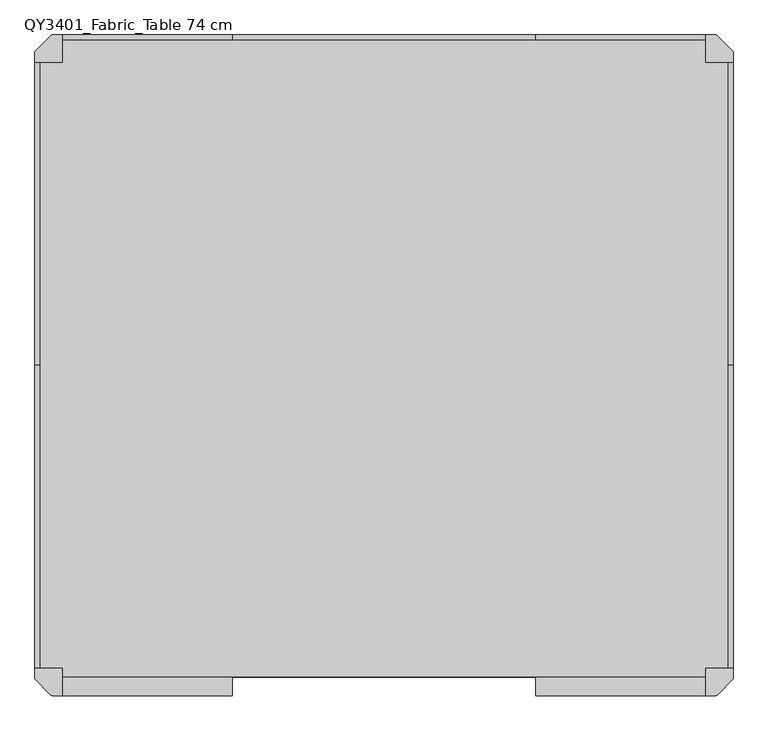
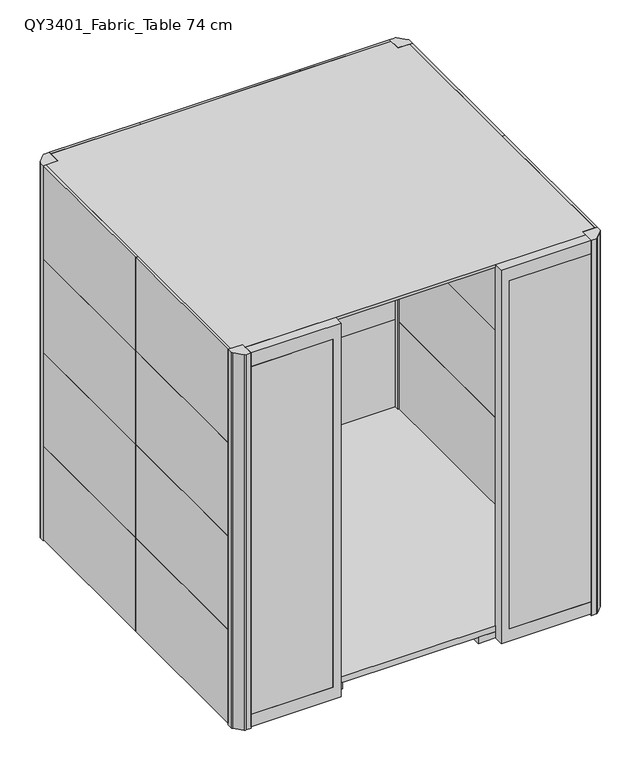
"""IFC4 building model written with IfcOpenShell, lengths in millimetres: furniture geometry, Qyos_400 : QY3401_Fabric_Table 74 cm."""

from ifc_helpers import new_model, si_unit, point, frame, frame_2d, origin, origin_with_axes, place, context, project, spatial, polyline, circle_curve, trimmed, segment, composite_curve, outline, extrude, source, transform, mapped, element, save
from ifc_brep_helpers import plane_surface, cylinder_surface, advanced_brep


def qy3401_fabric_table_74_cm_c8840b60(model_context):
    return source(origin(), model_context, "Body", "SolidModel", [
        advanced_brep(
        [(853.8585356, 827.0, 0.0), (900.1414644, 827.0, 0.0), (877.0, 827.0, 0.0), (853.8585356, 827.0, 7.0), (900.1414644, 827.0, 7.0), (867.3615446, 827.0, 7.0), (886.6384554, 827.0, 7.0), (867.3615446, 827.0, 17.0), (886.6384554, 827.0, 17.0), (877.0, 827.0, 17.0)],
        [
            (0, 1, circle_curve(frame((877.0, 827.0, 0.0), z_axis=(0.0, 0.0, -1.0), x_axis=(1.0, 0.0, 0.0)), 23.1414644)),
            (1, 2),
            (2, 0),
            (1, 0, circle_curve(frame((877.0, 827.0, 0.0), z_axis=(0.0, 0.0, -1.0), x_axis=(1.0, 0.0, 0.0)), 23.1414644)),
            (3, 4, circle_curve(frame((877.0, 827.0, 7.0), z_axis=(0.0, 0.0, -1.0), x_axis=(1.0, 0.0, 0.0)), 23.1414644)),
            (4, 1),
            (0, 3),
            (4, 3, circle_curve(frame((877.0, 827.0, 7.0), z_axis=(0.0, 0.0, -1.0), x_axis=(1.0, 0.0, 0.0)), 23.1414644)),
            (5, 6, circle_curve(frame((877.0, 827.0, 7.0), z_axis=(0.0, 0.0, -1.0), x_axis=(1.0, 0.0, 0.0)), 9.6384554)),
            (6, 4),
            (3, 5),
            (6, 5, circle_curve(frame((877.0, 827.0, 7.0), z_axis=(0.0, 0.0, -1.0), x_axis=(1.0, 0.0, 0.0)), 9.6384554)),
            (7, 8, circle_curve(frame((877.0, 827.0, 17.0), z_axis=(0.0, 0.0, -1.0), x_axis=(1.0, 0.0, 0.0)), 9.6384554)),
            (8, 6),
            (5, 7),
            (8, 7, circle_curve(frame((877.0, 827.0, 17.0), z_axis=(0.0, 0.0, -1.0), x_axis=(1.0, 0.0, 0.0)), 9.6384554)),
            (9, 8),
            (7, 9),
        ],
        [
            plane_surface(frame((877.0, 827.0, 0.0), z_axis=(0.0, 0.0, -1.0), x_axis=(1.0, 0.0, 0.0))),
            cylinder_surface(frame((877.0, 827.0, 1997.4144888), z_axis=(0.0, 0.0, 1.0), x_axis=(1.0, 0.0, 0.0)), 23.1414644),
            plane_surface(frame((877.0, 827.0, 7.0), z_axis=(0.0, 0.0, 1.0), x_axis=(1.0, 0.0, 0.0))),
            cylinder_surface(frame((877.0, 827.0, 1997.4144888), z_axis=(0.0, 0.0, 1.0), x_axis=(1.0, 0.0, 0.0)), 9.6384554),
            plane_surface(frame((877.0, 827.0, 17.0), z_axis=(0.0, 0.0, 1.0), x_axis=(1.0, 0.0, 0.0))),
        ],
        [
            (0, [[1, 2, 3]]),
            (0, [[4, -3, -2]]),
            (1, [[5, 6, -1, 7]]),
            (1, [[8, -7, -4, -6]]),
            (2, [[9, 10, -5, 11]]),
            (2, [[12, -11, -8, -10]]),
            (3, [[13, 14, -9, 15]]),
            (3, [[16, -15, -12, -14]]),
            (4, [[17, -13, 18]]),
            (4, [[-18, -16, -17]]),
        ],
    ),
        extrude(outline(composite_curve([segment(trimmed(circle_curve(frame_2d((877.0, 827.0)), 23.1414644), [point((853.8585356, 827.0))], [point((900.1414644, 827.0))], False, "CARTESIAN"), True, "CONTINUOUS"), segment(trimmed(circle_curve(frame_2d((877.0, 827.0)), 23.1414644), [point((900.1414644, 827.0))], [point((853.8585356, 827.0))], False, "CARTESIAN"), True, "CONTINUOUS")], self_intersect=False)), origin_with_axes(), (0.0, 0.0, 1.0), 7.0),
        extrude(outline(composite_curve([segment(polyline([(-945.0, 890.0), (-1025.0, 890.0), (-1025.0, 917.5536246)]), True, "CONTINUOUS"), segment(trimmed(circle_curve(frame_2d((-1013.0024364, 917.3118252)), 12.0), [point((-1025.0, 917.5536246))], [point((-1021.7960176, 925.4771745))], False, "CARTESIAN"), True, "CONTINUOUS"), segment(trimmed(circle_curve(frame_2d((-443.4303831, 388.431197)), 789.2560985), [point((-1021.7960176, 925.4771745))], [point((-980.4763607, 966.7968315))], False, "CARTESIAN"), True, "CONTINUOUS"), segment(trimmed(circle_curve(frame_2d((-972.3110114, 958.0032502)), 12.0), [point((-980.4763607, 966.7968315))], [point((-972.5902872, 970.0))], False, "CARTESIAN"), True, "CONTINUOUS"), segment(polyline([(-972.5902872, 970.0), (-945.0, 970.0), (-945.0, 890.0)]), True, "CONTINUOUS")], self_intersect=False)), origin_with_axes(), (0.0, 0.0, 1.0), 2202.1),
        extrude(outline(composite_curve([segment(polyline([(945.0, 890.0), (945.0, 970.0), (972.5536246, 970.0)]), True, "CONTINUOUS"), segment(trimmed(circle_curve(frame_2d((972.3118252, 958.0024364)), 12.0), [point((972.5536246, 970.0))], [point((980.4771745, 966.7960176))], False, "CARTESIAN"), True, "CONTINUOUS"), segment(trimmed(circle_curve(frame_2d((443.431197, 388.4303831)), 789.2560985), [point((980.4771745, 966.7960176))], [point((1021.7968315, 925.4763607))], False, "CARTESIAN"), True, "CONTINUOUS"), segment(trimmed(circle_curve(frame_2d((1013.0032502, 917.3110114)), 12.0), [point((1021.7968315, 925.4763607))], [point((1025.0, 917.5902872))], False, "CARTESIAN"), True, "CONTINUOUS"), segment(polyline([(1025.0, 917.5902872), (1025.0, 890.0), (945.0, 890.0)]), True, "CONTINUOUS")], self_intersect=False)), origin_with_axes(), (0.0, 0.0, 1.0), 2202.1),
        extrude(outline(composite_curve([segment(polyline([(945.0, -890.0), (1025.0, -890.0), (1025.0, -917.5536246)]), True, "CONTINUOUS"), segment(trimmed(circle_curve(frame_2d((1013.0024364, -917.3118252)), 12.0), [point((1025.0, -917.5536246))], [point((1021.7960176, -925.4771745))], False, "CARTESIAN"), True, "CONTINUOUS"), segment(trimmed(circle_curve(frame_2d((443.4303831, -388.431197)), 789.2560985), [point((1021.7960176, -925.4771745))], [point((980.4763607, -966.7968315))], False, "CARTESIAN"), True, "CONTINUOUS"), segment(trimmed(circle_curve(frame_2d((972.3110114, -958.0032502)), 12.0), [point((980.4763607, -966.7968315))], [point((972.5902872, -970.0))], False, "CARTESIAN"), True, "CONTINUOUS"), segment(polyline([(972.5902872, -970.0), (945.0, -970.0), (945.0, -890.0)]), True, "CONTINUOUS")], self_intersect=False)), origin_with_axes(), (0.0, 0.0, 1.0), 2202.1),
        extrude(outline(composite_curve([segment(polyline([(-945.0, -890.0), (-945.0, -970.0), (-972.5536246, -970.0)]), True, "CONTINUOUS"), segment(trimmed(circle_curve(frame_2d((-972.3118252, -958.0024364)), 12.0), [point((-972.5536246, -970.0))], [point((-980.4771745, -966.7960176))], False, "CARTESIAN"), True, "CONTINUOUS"), segment(trimmed(circle_curve(frame_2d((-443.431197, -388.4303831)), 789.2560985), [point((-980.4771745, -966.7960176))], [point((-1021.7968315, -925.4763607))], False, "CARTESIAN"), True, "CONTINUOUS"), segment(trimmed(circle_curve(frame_2d((-1013.0032502, -917.3110114)), 12.0), [point((-1021.7968315, -925.4763607))], [point((-1025.0, -917.5902872))], False, "CARTESIAN"), True, "CONTINUOUS"), segment(polyline([(-1025.0, -917.5902872), (-1025.0, -890.0), (-945.0, -890.0)]), True, "CONTINUOUS")], self_intersect=False)), origin_with_axes(), (0.0, 0.0, 1.0), 2202.1),
        extrude(outline(polyline([(-445.0, 970.0), (-445.0, 956.0), (-945.0, 956.0), (-945.0, 970.0), (-445.0, 970.0)])), frame((0.0, 0.0, 1654.0116287), z_axis=(0.0, 0.0, 1.0), x_axis=(1.0, 0.0, 0.0)), (0.0, 0.0, 1.0), 548.0883713),
        extrude(outline(polyline([(945.0, 956.0), (445.0557256, 956.0), (445.0557256, 970.0), (945.0, 970.0), (945.0, 956.0)])), frame((0.0, 0.0, 1654.0116287), z_axis=(0.0, 0.0, 1.0), x_axis=(1.0, 0.0, 0.0)), (0.0, 0.0, 1.0), 548.0883713),
        extrude(outline(polyline([(-445.0, 970.0), (-445.0, 956.0), (-945.0, 956.0), (-945.0, 970.0), (-445.0, 970.0)])), frame((0.0, 0.0, 1106.0116287), z_axis=(0.0, 0.0, 1.0), x_axis=(1.0, 0.0, 0.0)), (0.0, 0.0, 1.0), 548.0),
        extrude(outline(polyline([(945.0, 956.0), (445.0557256, 956.0), (445.0557256, 970.0), (945.0, 970.0), (945.0, 956.0)])), frame((0.0, 0.0, 1106.0116287), z_axis=(0.0, 0.0, 1.0), x_axis=(1.0, 0.0, 0.0)), (0.0, 0.0, 1.0), 548.0),
        extrude(outline(polyline([(-445.0, 970.0), (-445.0, 956.0), (-945.0, 956.0), (-945.0, 970.0), (-445.0, 970.0)])), frame((0.0, 0.0, 558.0116287), z_axis=(0.0, 0.0, 1.0), x_axis=(1.0, 0.0, 0.0)), (0.0, 0.0, 1.0), 548.0),
        extrude(outline(polyline([(945.0, 956.0), (445.0557256, 956.0), (445.0557256, 970.0), (945.0, 970.0), (945.0, 956.0)])), frame((0.0, 0.0, 558.0116287), z_axis=(0.0, 0.0, 1.0), x_axis=(1.0, 0.0, 0.0)), (0.0, 0.0, 1.0), 548.0),
        extrude(outline(polyline([(-945.0, 915.0), (-945.0, 934.0), (-445.0, 934.0), (-445.0, 915.0), (-945.0, 915.0)])), frame((0.0, 0.0, 1617.9823403), z_axis=(0.0, 0.0, 1.0), x_axis=(1.0, 0.0, 0.0)), (0.0, 0.0, 1.0), 504.1176597),
        extrude(outline(polyline([(445.0557256, 934.0), (945.0, 934.0), (945.0, 915.0), (445.0557256, 915.0), (445.0557256, 934.0)])), frame((0.0, 0.0, 1617.9823403), z_axis=(0.0, 0.0, 1.0), x_axis=(1.0, 0.0, 0.0)), (0.0, 0.0, 1.0), 504.1176597),
        extrude(outline(polyline([(-945.0, 915.0), (-945.0, 934.0), (-445.0, 934.0), (-445.0, 915.0), (-945.0, 915.0)])), frame((0.0, 0.0, 1106.0116287), z_axis=(0.0, 0.0, 1.0), x_axis=(1.0, 0.0, 0.0)), (0.0, 0.0, 1.0), 511.9707116),
        extrude(outline(polyline([(445.0557256, 934.0), (945.0, 934.0), (945.0, 915.0), (445.0557256, 915.0), (445.0557256, 934.0)])), frame((0.0, 0.0, 1106.0116287), z_axis=(0.0, 0.0, 1.0), x_axis=(1.0, 0.0, 0.0)), (0.0, 0.0, 1.0), 511.9707116),
        extrude(outline(polyline([(-945.0, 915.0), (-945.0, 934.0), (-445.0, 934.0), (-445.0, 915.0), (-945.0, 915.0)])), frame((0.0, 0.0, 593.9823403), z_axis=(0.0, 0.0, 1.0), x_axis=(1.0, 0.0, 0.0)), (0.0, 0.0, 1.0), 512.0292884),
        extrude(outline(polyline([(445.0557256, 934.0), (945.0, 934.0), (945.0, 915.0), (445.0557256, 915.0), (445.0557256, 934.0)])), frame((0.0, 0.0, 593.9823403), z_axis=(0.0, 0.0, 1.0), x_axis=(1.0, 0.0, 0.0)), (0.0, 0.0, 1.0), 512.0292884),
        extrude(outline(polyline([(-945.0, 915.0), (-945.0, 934.0), (-445.0, 934.0), (-445.0, 915.0), (-945.0, 915.0)])), frame((0.0, 0.0, 77.0), z_axis=(0.0, 0.0, 1.0), x_axis=(1.0, 0.0, 0.0)), (0.0, 0.0, 1.0), 516.9823403),
        extrude(outline(polyline([(445.0557256, 934.0), (945.0, 934.0), (945.0, 915.0), (445.0557256, 915.0), (445.0557256, 934.0)])), frame((0.0, 0.0, 77.0), z_axis=(0.0, 0.0, 1.0), x_axis=(1.0, 0.0, 0.0)), (0.0, 0.0, 1.0), 516.9823403),
        extrude(outline(polyline([(-445.0, 970.0), (-445.0, 956.0), (-945.0, 956.0), (-945.0, 970.0), (-445.0, 970.0)])), frame((0.0, 0.0, 10.0), z_axis=(0.0, 0.0, 1.0), x_axis=(1.0, 0.0, 0.0)), (0.0, 0.0, 1.0), 548.0116287),
        extrude(outline(polyline([(945.0, 956.0), (445.0557256, 956.0), (445.0557256, 970.0), (945.0, 970.0), (945.0, 956.0)])), frame((0.0, 0.0, 10.0), z_axis=(0.0, 0.0, 1.0), x_axis=(1.0, 0.0, 0.0)), (0.0, 0.0, 1.0), 548.0116287),
        extrude(outline(polyline([(-1025.0, -890.0), (-1025.0, 0.0), (-1011.0, 0.0), (-1011.0, -890.0), (-1025.0, -890.0)])), frame((0.0, 0.0, 10.0), z_axis=(0.0, 0.0, 1.0), x_axis=(1.0, 0.0, 0.0)), (0.0, 0.0, 1.0), 548.0116287),
        extrude(outline(polyline([(1025.0, -890.0), (1011.0, -890.0), (1011.0, 0.0), (1025.0, 0.0), (1025.0, -890.0)])), frame((0.0, 0.0, 10.0), z_axis=(0.0, 0.0, 1.0), x_axis=(1.0, 0.0, 0.0)), (0.0, 0.0, 1.0), 548.0116287),
        extrude(outline(polyline([(-1025.0, -890.0), (-1025.0, 0.0), (-1011.0, 0.0), (-1011.0, -890.0), (-1025.0, -890.0)])), frame((0.0, 0.0, 558.0116287), z_axis=(0.0, 0.0, 1.0), x_axis=(1.0, 0.0, 0.0)), (0.0, 0.0, 1.0), 548.0),
        extrude(outline(polyline([(1025.0, -890.0), (1011.0, -890.0), (1011.0, 0.0), (1025.0, 0.0), (1025.0, -890.0)])), frame((0.0, 0.0, 558.0116287), z_axis=(0.0, 0.0, 1.0), x_axis=(1.0, 0.0, 0.0)), (0.0, 0.0, 1.0), 548.0),
        extrude(outline(polyline([(-1025.0, -890.0), (-1025.0, 0.0), (-1011.0, 0.0), (-1011.0, -890.0), (-1025.0, -890.0)])), frame((0.0, 0.0, 1106.0116287), z_axis=(0.0, 0.0, 1.0), x_axis=(1.0, 0.0, 0.0)), (0.0, 0.0, 1.0), 548.0),
        extrude(outline(polyline([(1025.0, -890.0), (1011.0, -890.0), (1011.0, 0.0), (1025.0, 0.0), (1025.0, -890.0)])), frame((0.0, 0.0, 1106.0116287), z_axis=(0.0, 0.0, 1.0), x_axis=(1.0, 0.0, 0.0)), (0.0, 0.0, 1.0), 548.0),
        extrude(outline(polyline([(-1025.0, -890.0), (-1025.0, 0.0), (-1011.0, 0.0), (-1011.0, -890.0), (-1025.0, -890.0)])), frame((0.0, 0.0, 1654.0116287), z_axis=(0.0, 0.0, 1.0), x_axis=(1.0, 0.0, 0.0)), (0.0, 0.0, 1.0), 548.0883713),
        extrude(outline(polyline([(1025.0, -890.0), (1011.0, -890.0), (1011.0, 0.0), (1025.0, 0.0), (1025.0, -890.0)])), frame((0.0, 0.0, 1654.0116287), z_axis=(0.0, 0.0, 1.0), x_axis=(1.0, 0.0, 0.0)), (0.0, 0.0, 1.0), 548.0883713),
        extrude(outline(polyline([(-1025.0, 0.0), (-1025.0, 890.0), (-1011.0, 890.0), (-1011.0, 0.0), (-1025.0, 0.0)])), frame((0.0, 0.0, 1654.0116287), z_axis=(0.0, 0.0, 1.0), x_axis=(1.0, 0.0, 0.0)), (0.0, 0.0, 1.0), 548.0883713),
        extrude(outline(polyline([(1025.0, 0.0), (1011.0, 0.0), (1011.0, 890.0), (1025.0, 890.0), (1025.0, 0.0)])), frame((0.0, 0.0, 1654.0116287), z_axis=(0.0, 0.0, 1.0), x_axis=(1.0, 0.0, 0.0)), (0.0, 0.0, 1.0), 548.0883713),
        extrude(outline(polyline([(445.0557256, 970.0), (445.0557256, 956.0), (-445.0, 956.0), (-445.0, 970.0), (445.0557256, 970.0)])), frame((0.0, 0.0, 1654.0116287), z_axis=(0.0, 0.0, 1.0), x_axis=(1.0, 0.0, 0.0)), (0.0, 0.0, 1.0), 548.0883713),
        extrude(outline(polyline([(-445.0, 956.0), (445.0, 956.0), (945.0, 956.0), (945.0, 890.0), (1011.0, 890.0), (1011.0, -890.0), (945.0, -890.0), (945.0, -914.9956819), (-945.0, -914.9956819), (-945.0, -890.0), (-1011.0, -890.0), (-1011.0, 890.0), (-945.0, 890.0), (-945.0, 956.0), (-445.0, 956.0)])), frame((0.0, 0.0, 2186.1), z_axis=(0.0, 0.0, 1.0), x_axis=(1.0, 0.0, 0.0)), (0.0, 0.0, 1.0), 16.0),
        extrude(outline(polyline([(-490.0089845, -970.0), (-945.0, -970.0), (-945.0, -965.0), (-490.0089845, -965.0), (-490.0089845, -970.0)])), frame((0.0, 0.0, 82.0), z_axis=(0.0, 0.0, 1.0), x_axis=(1.0, 0.0, 0.0)), (0.0, 0.0, 1.0), 2040.1),
        extrude(outline(polyline([(945.0, -970.0), (490.0089845, -970.0), (490.0089845, -965.0), (945.0, -965.0), (945.0, -970.0)])), frame((0.0, 0.0, 82.0), z_axis=(0.0, 0.0, 1.0), x_axis=(1.0, 0.0, 0.0)), (0.0, 0.0, 1.0), 2040.1),
        extrude(outline(polyline([(-857.0, -914.9956819), (-897.0, -914.9956819), (-897.0, 915.0), (-857.0, 915.0), (-857.0, -914.9956819)])), frame((0.0, 0.0, 10.0), z_axis=(0.0, 0.0, 1.0), x_axis=(1.0, 0.0, 0.0)), (0.0, 0.0, 1.0), 37.0),
        extrude(outline(polyline([(-405.0, -914.9956819), (-445.0, -914.9956819), (-445.0, 915.0), (-405.0, 915.0), (-405.0, -914.9956819)])), frame((0.0, 0.0, 10.0), z_axis=(0.0, 0.0, 1.0), x_axis=(1.0, 0.0, 0.0)), (0.0, 0.0, 1.0), 37.0),
        extrude(outline(polyline([(897.0, -914.9956819), (857.0, -914.9956819), (857.0, 915.0), (897.0, 915.0), (897.0, -914.9956819)])), frame((0.0, 0.0, 10.0), z_axis=(0.0, 0.0, 1.0), x_axis=(1.0, 0.0, 0.0)), (0.0, 0.0, 1.0), 37.0),
        extrude(outline(polyline([(349.5486306, 915.0), (445.0557256, 915.0), (445.0557256, -914.9956819), (349.5486306, -914.9956819), (349.5486306, 915.0)])), frame((0.0, 0.0, 10.0), z_axis=(0.0, 0.0, 1.0), x_axis=(1.0, 0.0, 0.0)), (0.0, 0.0, 1.0), 37.0),
        extrude(outline(polyline([(2122.1, -490.0089845), (82.0, -490.0089845), (82.0, -945.0), (10.0, -945.0), (10.0, -445.0), (2202.1, -445.0), (2202.1, -945.0), (2122.1, -945.0), (2122.1, -490.0089845)])), frame((0.0, -970.0, 0.0), z_axis=(0.0, 1.0, 0.0), x_axis=(0.0, 0.0, 1.0)), (0.0, 0.0, 1.0), 55.0043181),
        extrude(outline(polyline([(2122.1, 490.0089845), (2122.1, 945.0), (2202.1, 945.0), (2202.1, 445.0), (10.0, 445.0), (10.0, 945.0), (82.0, 945.0), (82.0, 490.0089845), (2122.1, 490.0089845)])), frame((0.0, -970.0, 0.0), z_axis=(0.0, 1.0, 0.0), x_axis=(0.0, 0.0, 1.0)), (0.0, 0.0, 1.0), 55.0043181),
        extrude(outline(polyline([(-951.0, 890.0), (-945.0, 890.0), (-945.0, 915.0), (945.0, 915.0), (945.0, 890.0), (951.0, 890.0), (951.0, -890.0), (945.0, -890.0), (945.0, -914.9956819), (-945.0, -914.9956819), (-945.0, -890.0), (-951.0, -890.0), (-951.0, 890.0)])), frame((0.0, 0.0, 47.0), z_axis=(0.0, 0.0, 1.0), x_axis=(1.0, 0.0, 0.0)), (0.0, 0.0, 1.0), 35.0),
        extrude(outline(polyline([(970.0, -889.9498873), (951.0, -889.9498873), (951.0, 890.0024364), (970.0, 890.0024364), (970.0, -889.9498873)])), frame((0.0, 0.0, 1617.9823403), z_axis=(0.0, 0.0, 1.0), x_axis=(1.0, 0.0, 0.0)), (0.0, 0.0, 1.0), 504.1176597),
        extrude(outline(polyline([(-970.0, -890.0), (-970.0, 890.0), (-951.0, 890.0), (-951.0, -890.0), (-970.0, -890.0)])), frame((0.0, 0.0, 1617.9823403), z_axis=(0.0, 0.0, 1.0), x_axis=(1.0, 0.0, 0.0)), (0.0, 0.0, 1.0), 504.1176597),
        extrude(outline(polyline([(-445.0, 915.0), (-445.0, 934.0), (445.0557256, 934.0), (445.0557256, 915.0), (-445.0, 915.0)])), frame((0.0, 0.0, 1617.9823403), z_axis=(0.0, 0.0, 1.0), x_axis=(1.0, 0.0, 0.0)), (0.0, 0.0, 1.0), 504.1176597),
        extrude(outline(polyline([(970.0, -890.0), (951.0, -890.0), (951.0, 890.0), (970.0, 890.0), (970.0, -890.0)])), frame((0.0, 0.0, 1106.0116287), z_axis=(0.0, 0.0, 1.0), x_axis=(1.0, 0.0, 0.0)), (0.0, 0.0, 1.0), 511.9707116),
        extrude(outline(polyline([(-970.0, -890.0), (-970.0, 890.0), (-951.0, 890.0), (-951.0, -890.0), (-970.0, -890.0)])), frame((0.0, 0.0, 1106.0116287), z_axis=(0.0, 0.0, 1.0), x_axis=(1.0, 0.0, 0.0)), (0.0, 0.0, 1.0), 511.9707116),
        extrude(outline(polyline([(-445.0, 915.0), (-445.0, 934.0), (445.0557256, 934.0), (445.0557256, 915.0), (-445.0, 915.0)])), frame((0.0, 0.0, 1106.0116287), z_axis=(0.0, 0.0, 1.0), x_axis=(1.0, 0.0, 0.0)), (0.0, 0.0, 1.0), 511.9707116),
        extrude(outline(polyline([(970.0, -890.0), (951.0, -890.0), (951.0, 890.0), (970.0, 890.0), (970.0, -890.0)])), frame((0.0, 0.0, 593.9823403), z_axis=(0.0, 0.0, 1.0), x_axis=(1.0, 0.0, 0.0)), (0.0, 0.0, 1.0), 512.0292884),
        extrude(outline(polyline([(-970.0, -890.0), (-970.0, 890.0), (-951.0, 890.0), (-951.0, -890.0), (-970.0, -890.0)])), frame((0.0, 0.0, 593.9823403), z_axis=(0.0, 0.0, 1.0), x_axis=(1.0, 0.0, 0.0)), (0.0, 0.0, 1.0), 512.0292884),
        extrude(outline(polyline([(-445.0, 915.0), (-445.0, 934.0), (445.0557256, 934.0), (445.0557256, 915.0), (-445.0, 915.0)])), frame((0.0, 0.0, 593.9823403), z_axis=(0.0, 0.0, 1.0), x_axis=(1.0, 0.0, 0.0)), (0.0, 0.0, 1.0), 512.0292884),
        extrude(outline(polyline([(970.0, -890.0), (951.0, -890.0), (951.0, 890.0), (970.0, 890.0), (970.0, -890.0)])), frame((0.0, 0.0, 77.0), z_axis=(0.0, 0.0, 1.0), x_axis=(1.0, 0.0, 0.0)), (0.0, 0.0, 1.0), 516.9823403),
        extrude(outline(polyline([(-970.0, -890.0), (-970.0, 890.0), (-951.0, 890.0), (-951.0, -890.0), (-970.0, -890.0)])), frame((0.0, 0.0, 77.0), z_axis=(0.0, 0.0, 1.0), x_axis=(1.0, 0.0, 0.0)), (0.0, 0.0, 1.0), 516.9823403),
        extrude(outline(polyline([(-445.0, 915.0), (-445.0, 934.0), (445.0557256, 934.0), (445.0557256, 915.0), (-445.0, 915.0)])), frame((0.0, 0.0, 77.0), z_axis=(0.0, 0.0, 1.0), x_axis=(1.0, 0.0, 0.0)), (0.0, 0.0, 1.0), 516.9823403),
        extrude(outline(polyline([(-1025.0, 0.0), (-1025.0, 890.0), (-1011.0, 890.0), (-1011.0, 0.0), (-1025.0, 0.0)])), frame((0.0, 0.0, 1106.0116287), z_axis=(0.0, 0.0, 1.0), x_axis=(1.0, 0.0, 0.0)), (0.0, 0.0, 1.0), 548.0),
        extrude(outline(polyline([(1025.0, 0.0), (1011.0, 0.0), (1011.0, 890.0), (1025.0, 890.0), (1025.0, 0.0)])), frame((0.0, 0.0, 1106.0116287), z_axis=(0.0, 0.0, 1.0), x_axis=(1.0, 0.0, 0.0)), (0.0, 0.0, 1.0), 548.0),
        extrude(outline(polyline([(445.0557256, 970.0), (445.0557256, 956.0), (-445.0, 956.0), (-445.0, 970.0), (445.0557256, 970.0)])), frame((0.0, 0.0, 1106.0116287), z_axis=(0.0, 0.0, 1.0), x_axis=(1.0, 0.0, 0.0)), (0.0, 0.0, 1.0), 548.0),
        extrude(outline(polyline([(-1025.0, 0.0), (-1025.0, 890.0), (-1011.0, 890.0), (-1011.0, 0.0), (-1025.0, 0.0)])), frame((0.0, 0.0, 558.0116287), z_axis=(0.0, 0.0, 1.0), x_axis=(1.0, 0.0, 0.0)), (0.0, 0.0, 1.0), 548.0),
        extrude(outline(polyline([(1025.0, 0.0), (1011.0, 0.0), (1011.0, 890.0), (1025.0, 890.0), (1025.0, 0.0)])), frame((0.0, 0.0, 558.0116287), z_axis=(0.0, 0.0, 1.0), x_axis=(1.0, 0.0, 0.0)), (0.0, 0.0, 1.0), 548.0),
        extrude(outline(polyline([(445.0557256, 970.0), (445.0557256, 956.0), (-445.0, 956.0), (-445.0, 970.0), (445.0557256, 970.0)])), frame((0.0, 0.0, 558.0116287), z_axis=(0.0, 0.0, 1.0), x_axis=(1.0, 0.0, 0.0)), (0.0, 0.0, 1.0), 548.0),
        extrude(outline(polyline([(-1025.0, 0.0), (-1025.0, 890.0), (-1011.0, 890.0), (-1011.0, 0.0), (-1025.0, 0.0)])), frame((0.0, 0.0, 10.0), z_axis=(0.0, 0.0, 1.0), x_axis=(1.0, 0.0, 0.0)), (0.0, 0.0, 1.0), 548.0116287),
        extrude(outline(polyline([(1025.0, 0.0), (1011.0, 0.0), (1011.0, 890.0), (1025.0, 890.0), (1025.0, 0.0)])), frame((0.0, 0.0, 10.0), z_axis=(0.0, 0.0, 1.0), x_axis=(1.0, 0.0, 0.0)), (0.0, 0.0, 1.0), 548.0116287),
        extrude(outline(polyline([(445.0557256, 970.0), (445.0557256, 956.0), (-445.0, 956.0), (-445.0, 970.0), (445.0557256, 970.0)])), frame((0.0, 0.0, 10.0), z_axis=(0.0, 0.0, 1.0), x_axis=(1.0, 0.0, 0.0)), (0.0, 0.0, 1.0), 548.0116287),
    ])


if __name__ == "__main__":
    model = new_model("IFC4")
    model_context = context("Model", 3, world=origin())
    ifc_project = project(units=[si_unit("LENGTHUNIT", "METRE", prefix="MILLI")], contexts=[model_context])
    site = spatial("IfcSite", under=ifc_project)
    building = spatial("IfcBuilding", under=site)
    placement = place(None, origin())
    qy3401_fabric_table_74_cm_shape = qy3401_fabric_table_74_cm_c8840b60(model_context)
    element("IfcFurniture", 1, ObjectType="Qyos_400 : QY3401_Fabric_Table 74 cm", at=placement, inside=building, context=model_context, shape_type="MappedRepresentation", body=[
        mapped(qy3401_fabric_table_74_cm_shape, transform((0.0, 0.0, 0.0), x_axis=(1.0, 0.0, 0.0), y_axis=(0.0, 1.0, 0.0), z_axis=(0.0, 0.0, 1.0))),
    ])
    save(model, "model.ifc")
